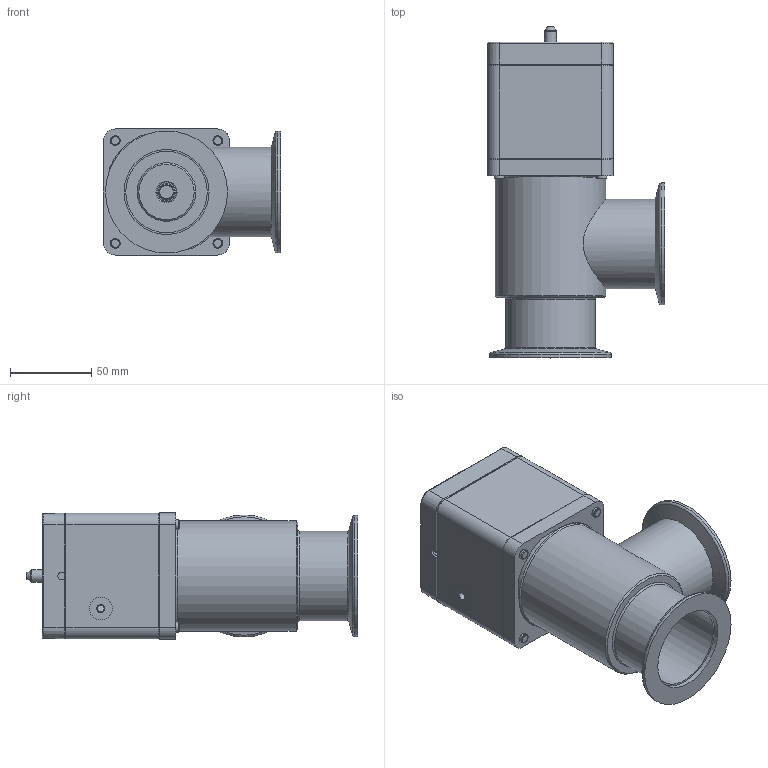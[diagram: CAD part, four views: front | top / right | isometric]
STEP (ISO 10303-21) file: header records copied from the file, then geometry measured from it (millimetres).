
FILE_DESCRIPTION(/* description */ (''),/* implementation_level */ '2;1');
FILE_NAME(/* name */ '1571377293_203.stp',/* time_stamp */ '2013-08-27T07:08:23+02:00',/* author */ (''),/* organization */ (''),/* preprocessor_version */ 'ST-DEVELOPER v11',/* originating_system */ 'SIEMENS PLM Software NX 7.5',/* authorisation */ '');
FILE_SCHEMA (('AP203_CONFIGURATION_CONTROLLED_3D_DESIGN_OF_MECHANICAL_PARTS_AND_ASSEMBLIES_MIM_LF'));
Length unit declared in the file: millimetre
Products named in the file (10): 248182.3; 252497.8; 248180.9; 245150; 236204_1.1; 258606.1; 256526.3; 224820.2; 248179.14; 702549
Assembly tree (13 placements, depth 3):
  702549
    248179.14
      248180.9
      252497.8
      248182.3
    224820.2  x4
    256526.3
    258606.1
    236204_1.1  x2
    245150
Bounding box: 108.7 x 203.79 x 77.4 mm (x, y, z)
Volume: 361567.9 mm3; surface area: 172817.5 mm2
Topology: 20 solids, 20 shells, 577 faces, 1400 edges, 900 vertices
Faces by surface type: plane 336, cylinder 107, cone 102, bspline 21, torus 11
Full cylindrical faces by diameter (mm): 2.5 x2, 2.95 x1, 3 x4, 4.2 x1, 4.6 x1, 4.7 x2, 4.96 x4, 5 x5, 5.6 x2, 6 x12, 6.6 x4, 7.4 x1, 8 x2, 8.175 x1, 9.1 x1, 10 x5, 11.975 x3, 12.015 x2, 13.85 x1, 14 x1, 16.555 x1, 36 x1, 50 x3, 52.2 x2, 55 x2, 63 x1, 63.05 x1, 67.9 x1, 69.45 x1, 70.45 x1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
Entity records: 16613 total; most frequent: CARTESIAN_POINT 3585, DIRECTION 2329, ORIENTED_EDGE 2234, EDGE_CURVE 1117, AXIS2_PLACEMENT_3D 839, VERTEX_POINT 789, EDGE_LOOP 696, LINE 651
